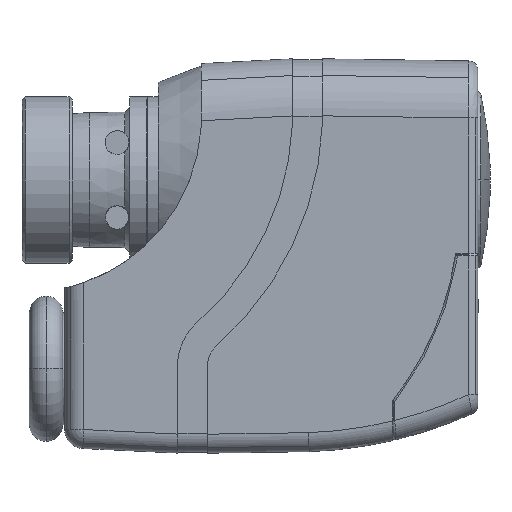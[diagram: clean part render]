
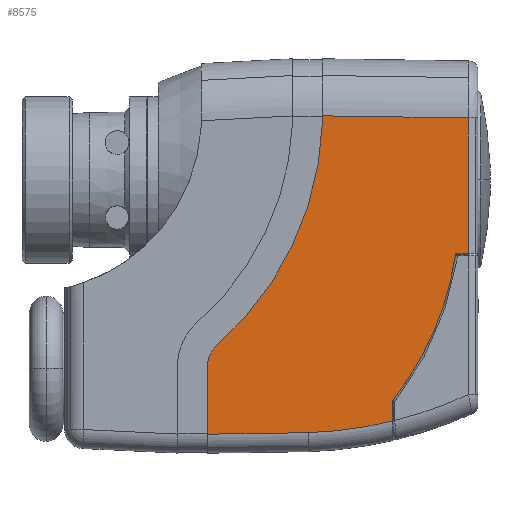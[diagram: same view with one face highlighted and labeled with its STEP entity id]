
A CAD part, left-side view. The second image highlights one B-rep face of the part: STEP entity #8575.
In plain terms, the highlighted planar face has unit normal (-1, 0, 0).
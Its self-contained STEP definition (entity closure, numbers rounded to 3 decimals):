
#7820=CARTESIAN_POINT('',(-24.0,-39.667,-36.461));
#7821=VERTEX_POINT('',#7820);
#7830=CARTESIAN_POINT('',(-24.0,-40.947,-34.833));
#7831=VERTEX_POINT('',#7830);
#7832=CARTESIAN_POINT('',(-24.0,-44.618,-39.034));
#7833=DIRECTION('',(-1.0,0.,0.));
#7834=DIRECTION('',(0.,0.887,0.461));
#7835=AXIS2_PLACEMENT_3D('',#7832,#7833,#7834);
#7836=CIRCLE('',#7835,5.579);
#7837=EDGE_CURVE('',#7831,#7821,#7836,.T.);
#7862=CARTESIAN_POINT('',(-24.,-56.909,-13.785));
#7863=VERTEX_POINT('',#7862);
#7872=CARTESIAN_POINT('',(-24.0,-63.227,11.864));
#7873=VERTEX_POINT('',#7872);
#7874=CARTESIAN_POINT('',(-24.0,2.023,14.332));
#7875=DIRECTION('',(1.,0.,0.));
#7876=DIRECTION('',(0.,-0.903,-0.431));
#7877=AXIS2_PLACEMENT_3D('',#7874,#7875,#7876);
#7878=CIRCLE('',#7877,65.296);
#7879=EDGE_CURVE('',#7873,#7863,#7878,.T.);
#7914=CARTESIAN_POINT('',(-24.0,-63.227,13.498));
#7915=VERTEX_POINT('',#7914);
#7923=CARTESIAN_POINT('',(-24.0,-93.948,13.063));
#7924=VERTEX_POINT('',#7923);
#7925=CARTESIAN_POINT('',(-24.0,-63.227,13.498));
#7926=DIRECTION('',(0.0,-1.,-0.014));
#7927=VECTOR('',#7926,30.724);
#7928=LINE('',#7925,#7927);
#7929=EDGE_CURVE('',#7915,#7924,#7928,.T.);
#7998=CARTESIAN_POINT('',(-24.0,-60.324,-53.19));
#7999=VERTEX_POINT('',#7998);
#8011=CARTESIAN_POINT('',(-24.0,-39.07,-53.498));
#8012=VERTEX_POINT('',#8011);
#8013=CARTESIAN_POINT('',(-24.0,-60.324,-53.19));
#8014=DIRECTION('',(0.0,1.,-0.015));
#8015=VECTOR('',#8014,21.256);
#8016=LINE('',#8013,#8015);
#8017=EDGE_CURVE('',#7999,#8012,#8016,.T.);
#8179=CARTESIAN_POINT('',(-24.0,-93.948,-15.487));
#8180=VERTEX_POINT('',#8179);
#8181=CARTESIAN_POINT('',(-24.0,-93.948,13.063));
#8182=DIRECTION('',(0.0,0.0,-1.0));
#8183=VECTOR('',#8182,28.55);
#8184=LINE('',#8181,#8183);
#8185=EDGE_CURVE('',#7924,#8180,#8184,.T.);
#8258=CARTESIAN_POINT('',(-24.,-86.664,-31.836));
#8259=VERTEX_POINT('',#8258);
#8268=CARTESIAN_POINT('',(-24.0,-77.983,-46.437));
#8269=VERTEX_POINT('',#8268);
#8270=CARTESIAN_POINT('',(-24.0,-26.786,-6.119));
#8271=DIRECTION('',(-1.0,0.,0.));
#8272=DIRECTION('',(0.,-0.919,-0.395));
#8273=AXIS2_PLACEMENT_3D('',#8270,#8271,#8272);
#8274=CIRCLE('',#8273,65.167);
#8275=EDGE_CURVE('',#8269,#8259,#8274,.T.);
#8300=CARTESIAN_POINT('',(-24.0,-91.276,-15.487));
#8301=VERTEX_POINT('',#8300);
#8302=CARTESIAN_POINT('',(-24.0,-91.276,-15.487));
#8303=DIRECTION('',(0.0,-1.0,0.0));
#8304=VECTOR('',#8303,2.672);
#8305=LINE('',#8302,#8304);
#8306=EDGE_CURVE('',#8301,#8180,#8305,.T.);
#8387=CARTESIAN_POINT('',(-24.0,-26.786,-6.119));
#8388=DIRECTION('',(-1.0,0.,0.));
#8389=DIRECTION('',(0.,-0.919,-0.395));
#8390=AXIS2_PLACEMENT_3D('',#8387,#8388,#8389);
#8391=CIRCLE('',#8390,65.167);
#8392=EDGE_CURVE('',#8259,#8301,#8391,.T.);
#8420=CARTESIAN_POINT('',(-24.0,-77.983,-50.743));
#8421=VERTEX_POINT('',#8420);
#8422=CARTESIAN_POINT('',(-24.0,-77.983,-50.743));
#8423=DIRECTION('',(0.0,0.0,1.0));
#8424=VECTOR('',#8423,4.306);
#8425=LINE('',#8422,#8424);
#8426=EDGE_CURVE('',#8421,#8269,#8425,.T.);
#8524=CARTESIAN_POINT('',(-24.0,-62.546,-17.964));
#8525=DIRECTION('',(-1.0,0.0,0.0));
#8526=DIRECTION('',(0.0,0.0,-1.0));
#8527=AXIS2_PLACEMENT_3D('',#8524,#8525,#8526);
#8528=PLANE('',#8527);
#8529=ORIENTED_EDGE('',*,*,#8426,.T.);
#8530=ORIENTED_EDGE('',*,*,#8275,.T.);
#8531=ORIENTED_EDGE('',*,*,#8392,.T.);
#8532=ORIENTED_EDGE('',*,*,#8306,.T.);
#8533=ORIENTED_EDGE('',*,*,#8185,.F.);
#8534=ORIENTED_EDGE('',*,*,#7929,.F.);
#8535=CARTESIAN_POINT('',(-24.0,-63.227,13.498));
#8536=DIRECTION('',(0.0,0.0,-1.0));
#8537=VECTOR('',#8536,1.634);
#8538=LINE('',#8535,#8537);
#8539=EDGE_CURVE('',#7915,#7873,#8538,.T.);
#8540=ORIENTED_EDGE('',*,*,#8539,.T.);
#8541=ORIENTED_EDGE('',*,*,#7879,.T.);
#8542=CARTESIAN_POINT('',(-24.0,2.023,14.332));
#8543=DIRECTION('',(1.,0.,0.));
#8544=DIRECTION('',(0.,-0.903,-0.431));
#8545=AXIS2_PLACEMENT_3D('',#8542,#8543,#8544);
#8546=CIRCLE('',#8545,65.296);
#8547=EDGE_CURVE('',#7863,#7831,#8546,.T.);
#8548=ORIENTED_EDGE('',*,*,#8547,.T.);
#8549=ORIENTED_EDGE('',*,*,#7837,.T.);
#8550=CARTESIAN_POINT('',(-24.0,-39.07,-38.444));
#8551=VERTEX_POINT('',#8550);
#8552=CARTESIAN_POINT('',(-24.0,-44.618,-39.034));
#8553=DIRECTION('',(-1.0,0.,0.));
#8554=DIRECTION('',(0.,0.887,0.461));
#8555=AXIS2_PLACEMENT_3D('',#8552,#8553,#8554);
#8556=CIRCLE('',#8555,5.579);
#8557=EDGE_CURVE('',#7821,#8551,#8556,.T.);
#8558=ORIENTED_EDGE('',*,*,#8557,.T.);
#8559=CARTESIAN_POINT('',(-24.0,-39.07,-38.444));
#8560=DIRECTION('',(0.0,0.0,-1.0));
#8561=VECTOR('',#8560,15.054);
#8562=LINE('',#8559,#8561);
#8563=EDGE_CURVE('',#8551,#8012,#8562,.T.);
#8564=ORIENTED_EDGE('',*,*,#8563,.T.);
#8565=ORIENTED_EDGE('',*,*,#8017,.F.);
#8566=CARTESIAN_POINT('',(-24.0,-57.195,34.359));
#8567=DIRECTION('',(1.,0.,0.));
#8568=DIRECTION('',(0.,-0.234,-0.972));
#8569=AXIS2_PLACEMENT_3D('',#8566,#8567,#8568);
#8570=CIRCLE('',#8569,87.604);
#8571=EDGE_CURVE('',#8421,#7999,#8570,.T.);
#8572=ORIENTED_EDGE('',*,*,#8571,.F.);
#8573=EDGE_LOOP('',(#8529,#8530,#8531,#8532,#8533,#8534,#8540,#8541,#8548,#8549,#8558,#8564,#8565,#8572));
#8574=FACE_OUTER_BOUND('',#8573,.T.);
#8575=ADVANCED_FACE('',(#8574),#8528,.T.);
